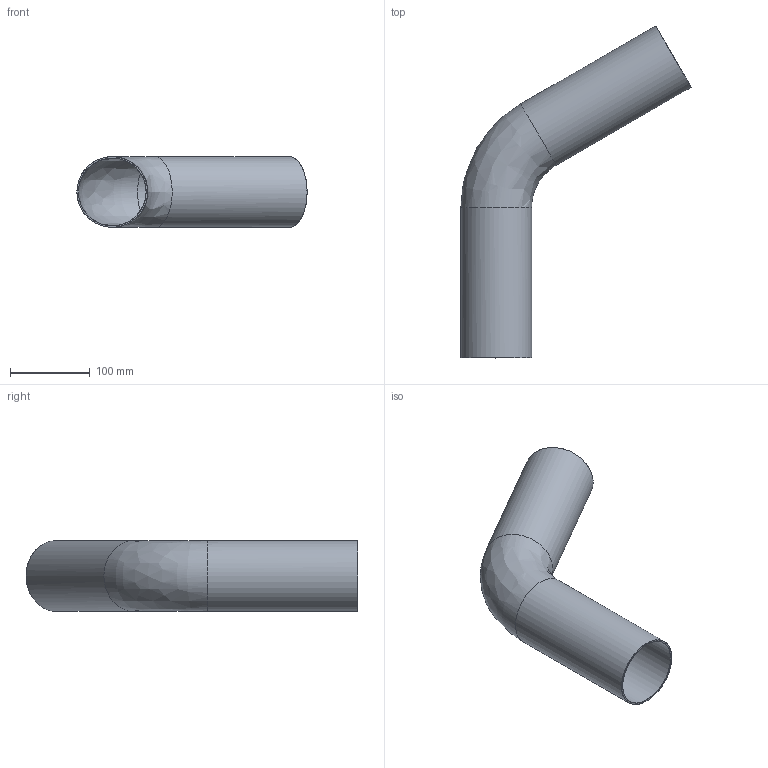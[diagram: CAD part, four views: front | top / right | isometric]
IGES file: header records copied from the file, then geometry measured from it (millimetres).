
Global section: file name: C72AL; native system: Autodesk Inventor 2023; preprocessor: unknown; author: lvalentini; date: 20230921.121019; units: millimetre
Bounding box: 289.16 x 416.89 x 88.9 mm (x, y, z)
Volume: 271589.3 mm3; surface area: 271952.8 mm2
Topology: 1 solids, 1 shells, 12 faces, 26 edges, 16 vertices
Faces by surface type: bspline 12
